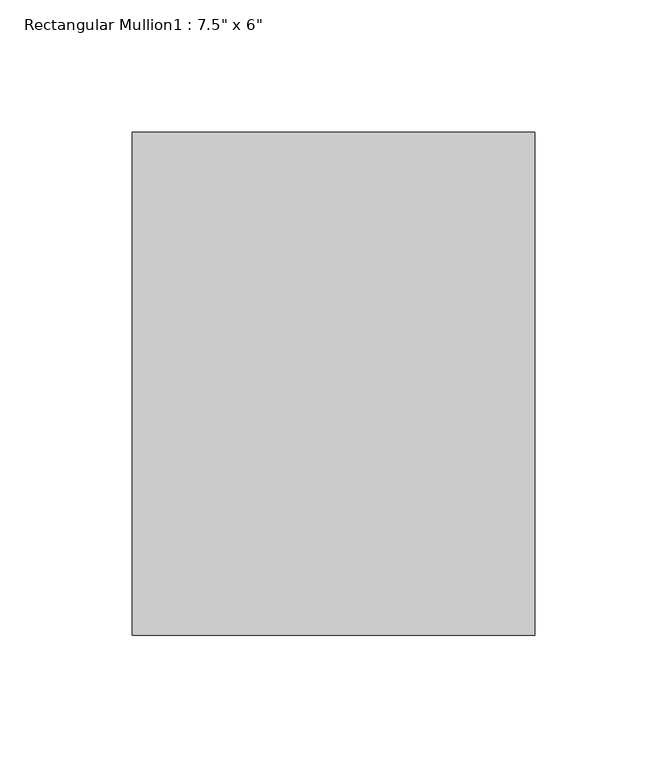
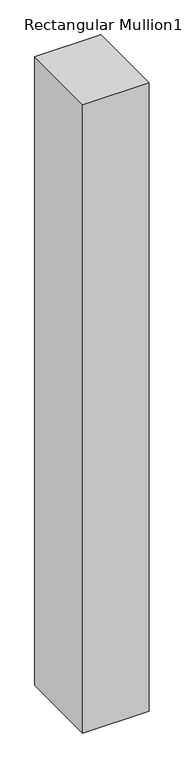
"""IFC4 building model written with IfcOpenShell, lengths in millimetres: member geometry."""

import ifcopenshell
import ifcopenshell.guid

model = None  # the IFC model being written
_history = None  # IfcOwnerHistory: only IFC2X3 demands one
_inside = {}  # id of a spatial element -> (the spatial element, [elements in it])
_under = {}  # id of a project, library or spatial element -> (it, [spatial elements below it])
_declared = {}  # id of a project -> (the project, [libraries it declares])
_typed = {}  # id of a type object -> (the type object, [elements of that type])
_made_of = {}  # id of a material, layer set ... -> (it, [elements and type objects made of it])


def new_model(schema):
    """Start an empty IFC model of exactly this schema.

    Asked for "IFC4X3", IfcOpenShell would pick the latest addendum, in which some entities
    have other attributes; the version numbers below select the first issue.
    IFC2X3 requires an IfcOwnerHistory on every rooted entity: one is made here for all.
    """
    global model, _history
    if schema == "IFC4X3":
        model = ifcopenshell.file(schema_version=(4, 3, 0, 0))
    else:
        model = ifcopenshell.file(schema=schema)
    _inside.clear()
    _under.clear()
    _declared.clear()
    _typed.clear()
    _made_of.clear()
    _history = None
    if model.schema == "IFC2X3":
        org = make("IfcOrganization", Name="unknown")
        user = make(
            "IfcPersonAndOrganization",
            ThePerson=make("IfcPerson", FamilyName="unknown"),
            TheOrganization=org,
        )
        app = make(
            "IfcApplication",
            ApplicationDeveloper=org,
            Version="unknown",
            ApplicationFullName="unknown",
            ApplicationIdentifier="unknown",
        )
        _history = make(
            "IfcOwnerHistory",
            OwningUser=user,
            OwningApplication=app,
            ChangeAction="ADDED",
            CreationDate=0,
        )
    return model


def make(cls, **values):
    """One entity of the class cls with the attributes given. An attribute that is None is left unset."""
    return model.create_entity(
        cls, **{name: value for name, value in values.items() if value is not None}
    )


def rooted(cls, **values):
    """An entity with a GlobalId (a new one), such as an element, a storey or a relation."""
    return make(cls, GlobalId=ifcopenshell.guid.new(), OwnerHistory=_history, **values)


def si_unit(unit_type, name, prefix=None):
    """IfcSIUnit, for example si_unit("LENGTHUNIT", "METRE", prefix="MILLI")."""
    return make("IfcSIUnit", UnitType=unit_type, Prefix=prefix, Name=name)


def assignment(units):
    """IfcUnitAssignment: the units of a project."""
    return None if units is None else make("IfcUnitAssignment", Units=units)


def point(xyz):
    """IfcCartesianPoint."""
    return None if xyz is None else make("IfcCartesianPoint", Coordinates=xyz)


def direction(xyz):
    """IfcDirection."""
    return None if xyz is None else make("IfcDirection", DirectionRatios=xyz)


def frame(location, z_axis=None, x_axis=None):
    """IfcAxis2Placement3D, a coordinate frame: its origin and axes. An axis left out is left unset."""
    return make(
        "IfcAxis2Placement3D",
        Location=point(location),
        Axis=direction(z_axis),
        RefDirection=direction(x_axis),
    )


def origin():
    """The frame at (0, 0, 0) with its axes left unset."""
    return frame((0.0, 0.0, 0.0))


def place(relative_to, where):
    """IfcLocalPlacement: puts the frame where relative to a parent placement (None: the world)."""
    return make(
        "IfcLocalPlacement", PlacementRelTo=relative_to, RelativePlacement=where
    )


def context(
    kind, dimensions, precision=None, world=None, true_north=None, identifier=None
):
    """IfcGeometricRepresentationContext, for example the 3D "Model" context."""
    return make(
        "IfcGeometricRepresentationContext",
        ContextIdentifier=identifier,
        ContextType=kind,
        CoordinateSpaceDimension=dimensions,
        Precision=precision,
        WorldCoordinateSystem=world,
        TrueNorth=true_north,
    )


def project(units=None, contexts=None):
    """IfcProject with its units and contexts."""
    return rooted(
        "IfcProject",
        Name="project",
        RepresentationContexts=contexts,
        UnitsInContext=assignment(units),
    )


def spatial(cls, under=None, at=None, **own):
    """A site, building, storey or space (cls), placed at a placement, below another one or the project."""
    s = rooted(cls, ObjectPlacement=at, **own)
    if under is not None:
        _under.setdefault(under.id(), (under, []))[1].append(s)
    return s


def polyline(points):
    """IfcPolyline through the points."""
    return make("IfcPolyline", Points=[point(p) for p in points])


def outline(outer, holes=None, kind="AREA"):
    """IfcArbitraryClosedProfileDef: a profile drawn as a closed curve; with holes, ...WithVoids."""
    if holes is None:
        return make("IfcArbitraryClosedProfileDef", ProfileType=kind, OuterCurve=outer)
    return make(
        "IfcArbitraryProfileDefWithVoids",
        ProfileType=kind,
        OuterCurve=outer,
        InnerCurves=holes,
    )


def extrude(swept, where, along, depth):
    """IfcExtrudedAreaSolid: the profile swept, set in the frame where, extruded along a direction by depth."""
    return make(
        "IfcExtrudedAreaSolid",
        SweptArea=swept,
        Position=where,
        ExtrudedDirection=direction(along),
        Depth=depth,
    )


def shape(context_of_items, identifier, shape_type, items):
    """IfcShapeRepresentation: the items that make up one representation, for example the "Body"."""
    return make(
        "IfcShapeRepresentation",
        ContextOfItems=context_of_items,
        RepresentationIdentifier=identifier,
        RepresentationType=shape_type,
        Items=items,
    )


def source(mapping_origin, context_of_items, identifier, shape_type, items):
    """IfcRepresentationMap: a shape defined once, which mapped items show again and again."""
    return make(
        "IfcRepresentationMap",
        MappingOrigin=mapping_origin,
        MappedRepresentation=shape(context_of_items, identifier, shape_type, items),
    )


def transform(
    local_origin,
    x_axis=None,
    y_axis=None,
    z_axis=None,
    scale=None,
    scale2=None,
    scale3=None,
    uniform=True,
):
    """IfcCartesianTransformationOperator3D, or its non-uniform kind. x_axis, y_axis, z_axis: its Axis1, 2, 3."""
    if uniform:
        return make(
            "IfcCartesianTransformationOperator3D",
            Axis1=direction(x_axis),
            Axis2=direction(y_axis),
            LocalOrigin=point(local_origin),
            Scale=scale,
            Axis3=direction(z_axis),
        )
    return make(
        "IfcCartesianTransformationOperator3DnonUniform",
        Axis1=direction(x_axis),
        Axis2=direction(y_axis),
        LocalOrigin=point(local_origin),
        Scale=scale,
        Axis3=direction(z_axis),
        Scale2=scale2,
        Scale3=scale3,
    )


def mapped(mapping_source, mapping_target):
    """IfcMappedItem: shows the shape of a source again, moved by a transform."""
    return make(
        "IfcMappedItem", MappingSource=mapping_source, MappingTarget=mapping_target
    )


def made_of(thing, what):
    """Note that an element or type object is made of a material, layer set ...; save() writes the relation."""
    if what is not None:
        _made_of.setdefault(what.id(), (what, []))[1].append(thing)
    return thing


def element(
    cls,
    number,
    at=None,
    inside=None,
    cuts=None,
    type_object=None,
    material=None,
    context=None,
    identifier="Body",
    shape_type=None,
    held_by="IfcProductDefinitionShape",
    body=None,
    shapes=None,
    **own,
):
    """One element of the class cls, such as IfcWall. Its Tag is "e" and its number.

    at: its placement. inside: the storey or other place that contains it. cuts: it is an
    opening in that element (IfcRelVoidsElement). A single representation is given by context,
    identifier, shape_type and body (its items); several are given by shapes. held_by: the class
    of the entity that holds the representations. save() writes the other relations.
    """
    e = rooted(cls, Tag="e%d" % number, ObjectPlacement=at, **own)
    if body is not None:
        shapes = [shape(context, identifier, shape_type, body)]
    if shapes is not None:
        e.Representation = make(held_by, Representations=shapes)
    if inside is not None:
        _inside.setdefault(inside.id(), (inside, []))[1].append(e)
    if cuts is not None:
        rooted(
            "IfcRelVoidsElement", RelatingBuildingElement=cuts, RelatedOpeningElement=e
        )
    if type_object is not None:
        _typed.setdefault(type_object.id(), (type_object, []))[1].append(e)
    return made_of(e, material)


def aggregate(whole, parts):
    """IfcRelAggregates: a whole, such as a stair, and the parts it consists of."""
    return rooted("IfcRelAggregates", RelatingObject=whole, RelatedObjects=parts)


def save(model, path):
    """Write the relations noted so far, then the file.

    IfcRelAggregates (storeys below a building ...), IfcRelContainedInSpatialStructure (elements
    in a storey), IfcRelDefinesByType, IfcRelAssociatesMaterial and IfcRelDeclares: one each for
    every whole, place, type object, material and project.
    """
    for whole, parts in _under.values():
        aggregate(whole, parts)
    for where, things in _inside.values():
        rooted(
            "IfcRelContainedInSpatialStructure",
            RelatedElements=things,
            RelatingStructure=where,
        )
    for kind, things in _typed.values():
        rooted("IfcRelDefinesByType", RelatedObjects=things, RelatingType=kind)
    for what, things in _made_of.values():
        rooted("IfcRelAssociatesMaterial", RelatedObjects=things, RelatingMaterial=what)
    for by, libraries in _declared.values():
        rooted("IfcRelDeclares", RelatingContext=by, RelatedDefinitions=libraries)
    model.write(path)


def member_19c1c7c5(model_context):
    return source(origin(), model_context, "Body", "SweptSolid", [
        extrude(outline(polyline([(-152.4, 165.1), (0.0, 165.1), (0.0, -25.4), (-152.4, -25.4), (-152.4, 165.1)])), frame((0.0, 0.0, -1524.0), z_axis=(0.0, 0.0, 1.0), x_axis=(1.0, 0.0, 0.0)), (0.0, 0.0, 1.0), 1524.0),
    ])


if __name__ == "__main__":
    model = new_model("IFC4")
    model_context = context("Model", 3, world=origin())
    ifc_project = project(units=[si_unit("LENGTHUNIT", "METRE", prefix="MILLI")], contexts=[model_context])
    site = spatial("IfcSite", under=ifc_project)
    building = spatial("IfcBuilding", under=site)
    placement = place(None, origin())
    member_shape = member_19c1c7c5(model_context)
    element("IfcMember", 1, ObjectType="Rectangular Mullion1 : 7.5\" x 6\"", at=placement, inside=building, context=model_context, shape_type="MappedRepresentation", body=[
        mapped(member_shape, transform((0.0, 0.0, 0.0), x_axis=(1.0, 0.0, 0.0), y_axis=(0.0, 1.0, 0.0), z_axis=(0.0, 0.0, 1.0))),
    ])
    save(model, "model.ifc")
